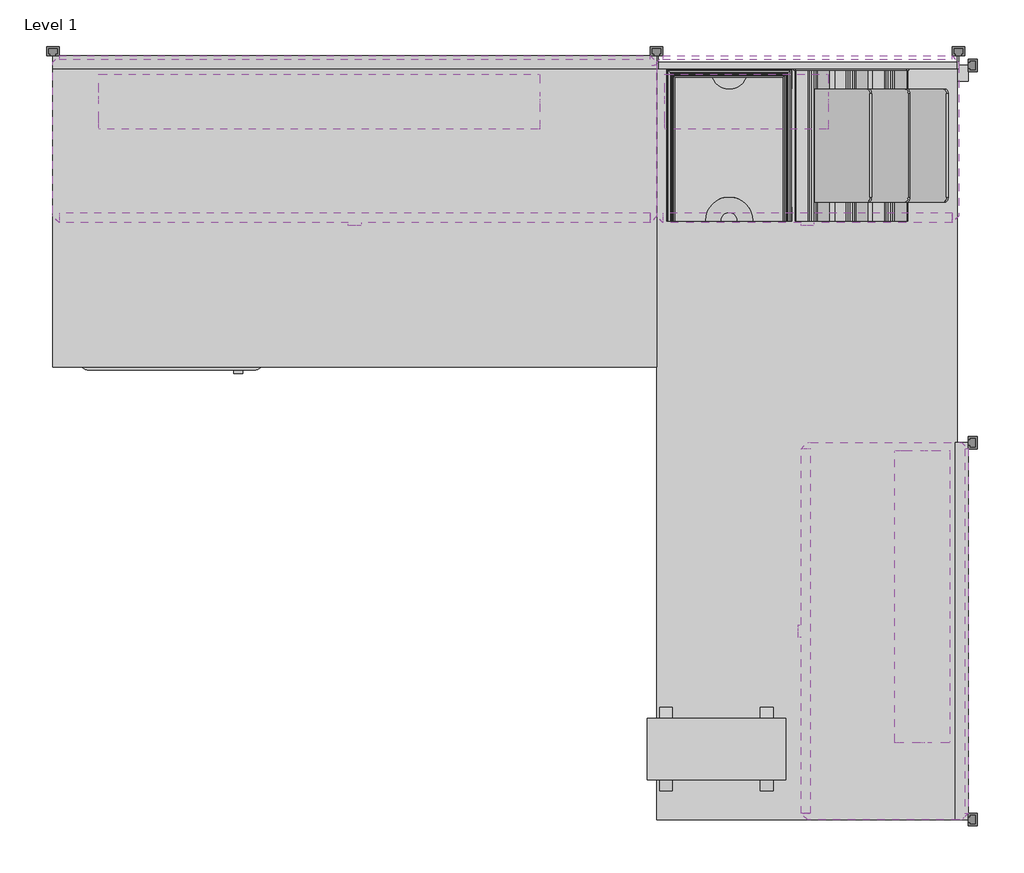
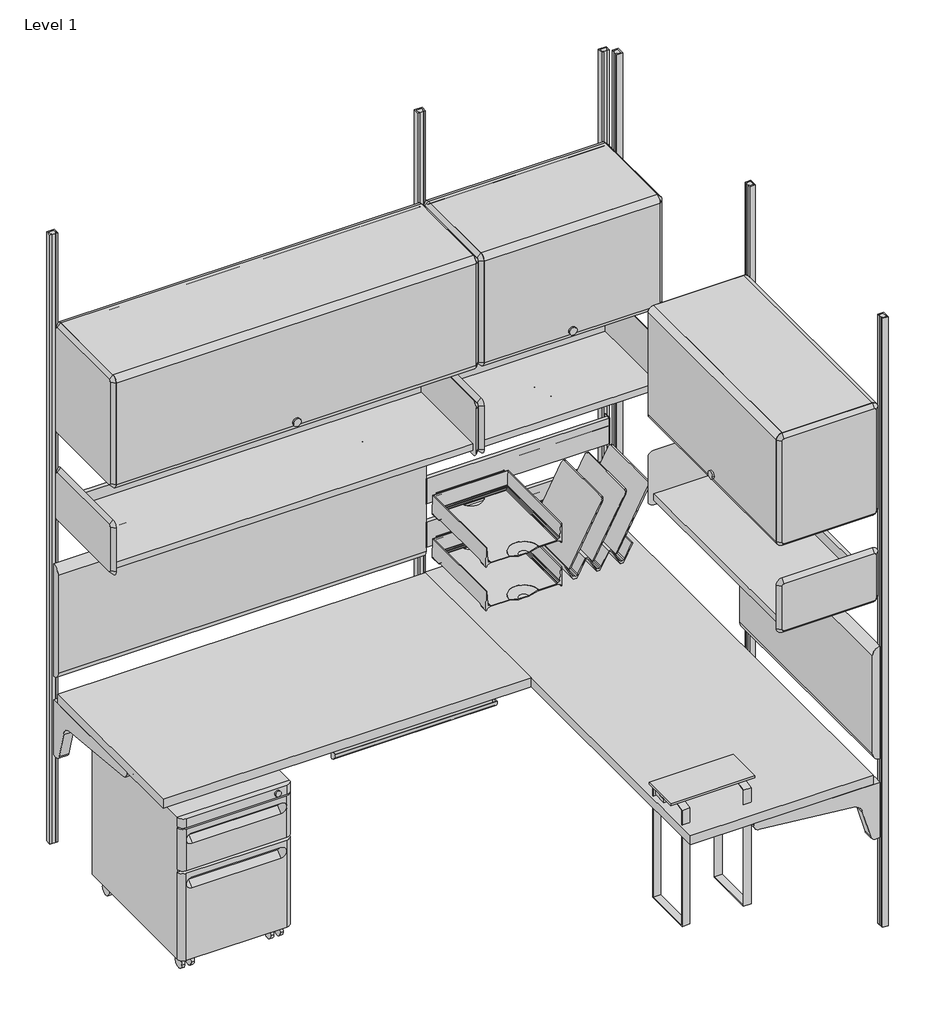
# One storey, incomplete: 24 furniture elements, 3 light fixtures.
"""IFC4 building model written with IfcOpenShell, lengths in millimetres."""

from ifc_helpers import new_model, si_unit, origin, place, context, project, spatial, transform, mapped, element, save
from components import furniture_84c54a78, furniture_bb782dc1, furniture_df6c216b, furniture_29f4d18c, furniture_477aaaef, furniture_17bfd149, furniture_cd3984e7, furniture_0a03e707, furniture_287f42d7, furniture_eaff21fa, furniture_1a24d834, furniture_b55deac3, furniture_7c5ded92, furniture_7e3bf245, furniture_12885719, furniture_8f8ee175, furniture_ed9c8b2b, furniture_ea425779, vertical_a4187a12, light_fixture_9518d37c, light_fixture_64e15388, light_fixture_6bfc72b8

model = new_model("IFC4")

# Units and contexts
model_context = context("Model", 3, world=origin())
ifc_project = project(units=[si_unit("LENGTHUNIT", "METRE", prefix="MILLI")], contexts=[model_context])

# Site, building, storey
site = spatial("IfcSite", under=ifc_project)
building = spatial("IfcBuilding", under=site)
storey = spatial("IfcBuildingStorey", under=building, Name="Level 1", Elevation=0.0)

# Furniture
placement = place(None, origin())
furniture_shape = furniture_84c54a78(model_context)
element("IfcFurniture", 1, ObjectType="HermanMiller_QuadrantFiling_G5111_MobilePedestal : 21-1/2\"H x 20\"D x 15\"W BF", at=placement, inside=storey, context=model_context, shape_type="MappedRepresentation", body=[
    mapped(furniture_shape, transform((239.44326, -390.382763, 0.0), x_axis=(1.0, 0.0, 0.0), y_axis=(0.0, 1.0, 0.0), z_axis=(0.0, 0.0, 1.0))),
])
furniture_2_shape = furniture_bb782dc1(model_context)
element("IfcFurniture", 2, ObjectType="HermanMiller_ThrivePortfolio_Y7218_DiagonalTray : 8 1/2\"H x 12\"D x 13\"W", at=placement, inside=storey, context=model_context, shape_type="MappedRepresentation", body=[
    mapped(furniture_2_shape, transform((1612.323177, -198.47052, 0.0), x_axis=(1.0, 0.0, 0.0), y_axis=(0.0, 1.0, 0.0), z_axis=(0.0, 0.0, 1.0))),
])
furniture_3_shape = furniture_df6c216b(model_context)
element("IfcFurniture", 3, ObjectType="HermanMiller_ThrivePortfolio_Y7216_PaperTray : 3\"H x 12\"D x 10\"W", at=placement, inside=storey, context=model_context, shape_type="MappedRepresentation", body=[
    mapped(furniture_3_shape, transform((1365.4024, -198.47052, 0.0), x_axis=(1.0, 0.0, 0.0), y_axis=(0.0, 1.0, 0.0), z_axis=(0.0, 0.0, 1.0))),
])
furniture_4_shape = furniture_29f4d18c(model_context)
element("IfcFurniture", 4, ObjectType="HermanMiller_ThrivePortfolio_Y7216_PaperTray : 3\"H x 12\"D x 10\"W", at=placement, inside=storey, context=model_context, shape_type="MappedRepresentation", body=[
    mapped(furniture_4_shape, transform((1365.4024, -198.47052, 0.0), x_axis=(1.0, 0.0, 0.0), y_axis=(0.0, 1.0, 0.0), z_axis=(0.0, 0.0, 1.0))),
])
furniture_5_shape = furniture_477aaaef(model_context)
element("IfcFurniture", 5, ObjectType="HermanMiller_ThrivePortfolio_Y5010_PencilDrawer : 2\"H x 16\"D x 21\"W", at=placement, inside=storey, context=model_context, shape_type="MappedRepresentation", body=[
    mapped(furniture_5_shape, transform((839.21854, -441.04052, 0.0), x_axis=(1.0, 0.0, 0.0), y_axis=(0.0, 1.0, 0.0), z_axis=(0.0, 0.0, 1.0))),
])
furniture_6_shape = furniture_17bfd149(model_context)
element("IfcFurniture", 6, ObjectType="HermanMiller_ActionOffice_A3610_ToolBar : 4\"H x 24\"W", at=placement, inside=storey, context=model_context, shape_type="MappedRepresentation", body=[
    mapped(furniture_6_shape, transform((1524.0, -31.7499996, 0.0), x_axis=(1.0, 0.0, 0.0), y_axis=(0.0, 1.0, 0.0), z_axis=(0.0, 0.0, 1.0))),
])
furniture_7_shape = furniture_cd3984e7(model_context)
element("IfcFurniture", 7, ObjectType="HermanMiller_ActionOffice_A3610_ToolBar : 4\"H x 24\"W", at=placement, inside=storey, context=model_context, shape_type="MappedRepresentation", body=[
    mapped(furniture_7_shape, transform((1524.0, -31.7499996, 0.0), x_axis=(1.0, 0.0, 0.0), y_axis=(0.0, 1.0, 0.0), z_axis=(0.0, 0.0, 1.0))),
])
furniture_8_shape = furniture_0a03e707(model_context)
element("IfcFurniture", 8, ObjectType="HermanMiller_ActionOffice_A3410_B-StyleTackboard : 16\"H x 48\"W", at=placement, inside=storey, context=model_context, shape_type="MappedRepresentation", body=[
    mapped(furniture_8_shape, transform((609.6, -31.75, 0.0), x_axis=(1.0, 0.0, 0.0), y_axis=(0.0, 1.0, 0.0), z_axis=(0.0, 0.0, 1.0))),
])
furniture_9_shape = furniture_287f42d7(model_context)
element("IfcFurniture", 9, ObjectType="HermanMiller_ActionOffice_A3220_B-StyleStorageDisplay : Shelf 13\"D x 48\"W", at=placement, inside=storey, context=model_context, shape_type="MappedRepresentation", body=[
    mapped(furniture_9_shape, transform((733.5420045, -200.025, 0.0), x_axis=(1.0, 0.0, 0.0), y_axis=(0.0, 1.0, 0.0), z_axis=(0.0, 0.0, 1.0))),
])
furniture_10_shape = furniture_eaff21fa(model_context)
element("IfcFurniture", 10, ObjectType="HermanMiller_ActionOffice_A3220_B-StyleStorageDisplay : Shelf 13\"D x 24\"W", at=placement, inside=storey, context=model_context, shape_type="MappedRepresentation", body=[
    mapped(furniture_10_shape, transform((1647.9420045, -200.025, 0.0), x_axis=(1.0, 0.0, 0.0), y_axis=(0.0, 1.0, 0.0), z_axis=(0.0, 0.0, 1.0))),
])
furniture_11_shape = furniture_1a24d834(model_context)
element("IfcFurniture", 11, ObjectType="HermanMiller_ActionOffice_A3352_B-StyleFlipperDoorUnit : 15 1/2\"H x 13\"D x 48\"W", at=placement, inside=storey, context=model_context, shape_type="MappedRepresentation", body=[
    mapped(furniture_11_shape, transform((609.6, -200.025, 0.0), x_axis=(1.0, 0.0, 0.0), y_axis=(0.0, 1.0, 0.0), z_axis=(0.0, 0.0, 1.0))),
])
furniture_12_shape = furniture_b55deac3(model_context)
element("IfcFurniture", 12, ObjectType="HermanMiller_ActionOffice_A3352_B-StyleFlipperDoorUnit : 15 1/2\"H x 13\"D x 24\"W", at=placement, inside=storey, context=model_context, shape_type="MappedRepresentation", body=[
    mapped(furniture_12_shape, transform((1524.0, -200.025, 0.0), x_axis=(1.0, 0.0, 0.0), y_axis=(0.0, 1.0, 0.0), z_axis=(0.0, 0.0, 1.0))),
])
furniture_13_shape = furniture_7c5ded92(model_context)
element("IfcFurniture", 13, ObjectType="HermanMiller_ActionOffice_A3410_B-StyleTackboard : 16\"H x 30\"W", at=placement, inside=storey, context=model_context, shape_type="MappedRepresentation", body=[
    mapped(furniture_13_shape, transform((1835.15, -1181.1, 0.0), x_axis=(0.0, -1.0, 0.0), y_axis=(1.0, 0.0, 0.0), z_axis=(0.0, 0.0, 1.0))),
])
furniture_14_shape = furniture_7e3bf245(model_context)
element("IfcFurniture", 14, ObjectType="HermanMiller_ActionOffice_A3220_B-StyleStorageDisplay : Shelf 13\"D x 30\"W", at=placement, inside=storey, context=model_context, shape_type="MappedRepresentation", body=[
    mapped(furniture_14_shape, transform((1666.875, -1305.0420045, 0.0), x_axis=(0.0, -1.0, 0.0), y_axis=(1.0, 0.0, 0.0), z_axis=(0.0, 0.0, 1.0))),
])
furniture_15_shape = furniture_12885719(model_context)
element("IfcFurniture", 15, ObjectType="HermanMiller_ActionOffice_A3352_B-StyleFlipperDoorUnit : 15 1/2\"H x 13\"D x 30\"W", at=placement, inside=storey, context=model_context, shape_type="MappedRepresentation", body=[
    mapped(furniture_15_shape, transform((1666.875, -1181.1, 0.0), x_axis=(0.0, -1.0, 0.0), y_axis=(1.0, 0.0, 0.0), z_axis=(0.0, 0.0, 1.0))),
])
furniture_16_shape = furniture_8f8ee175(model_context)
element("IfcFurniture", 16, ObjectType="HermanMiller_ActionOffice_A2310_Sq-EdgeRectangularWorkSurface : 24\"D x 60\"W", at=placement, inside=storey, context=model_context, shape_type="MappedRepresentation", body=[
    mapped(furniture_16_shape, transform((1533.525, -800.1, 0.0), x_axis=(0.0, -1.0, 0.0), y_axis=(1.0, 0.0, 0.0), z_axis=(0.0, 0.0, 1.0))),
])
furniture_17_shape = furniture_ed9c8b2b(model_context)
element("IfcFurniture", 17, ObjectType="HermanMiller_ActionOffice_A2310_Sq-EdgeRectangularWorkSurface : 24\"D x 48\"W", at=placement, inside=storey, context=model_context, shape_type="MappedRepresentation", body=[
    mapped(furniture_17_shape, transform((609.6, -333.375, 0.0), x_axis=(1.0, 0.0, 0.0), y_axis=(0.0, 1.0, 0.0), z_axis=(0.0, 0.0, 1.0))),
])
furniture_18_shape = furniture_ea425779(model_context)
element("IfcFurniture", 18, ObjectType="HermanMiller_ActionOffice_AO213_WallStrip : 84\"H", at=placement, inside=storey, context=model_context, shape_type="MappedRepresentation", body=[
    mapped(furniture_18_shape, transform((1866.9, -800.1, 0.0), x_axis=(0.0, -1.0, 0.0), y_axis=(1.0, 0.0, 0.0), z_axis=(0.0, 0.0, 1.0))),
])
element("IfcFurniture", 19, ObjectType="HermanMiller_ActionOffice_AO213_WallStrip : 84\"H", at=placement, inside=storey, context=model_context, shape_type="MappedRepresentation", body=[
    mapped(furniture_18_shape, transform((1828.8, 0.0, 0.0), x_axis=(1.0, 0.0, 0.0), y_axis=(0.0, 1.0, 0.0), z_axis=(0.0, 0.0, 1.0))),
])
element("IfcFurniture", 20, ObjectType="HermanMiller_ActionOffice_AO213_WallStrip : 84\"H", at=placement, inside=storey, context=model_context, shape_type="MappedRepresentation", body=[
    mapped(furniture_18_shape, transform((0.0, 0.0, 0.0), x_axis=(1.0, 0.0, 0.0), y_axis=(0.0, 1.0, 0.0), z_axis=(0.0, 0.0, 1.0))),
])
element("IfcFurniture", 21, ObjectType="HermanMiller_ActionOffice_AO213_WallStrip : 84\"H", at=placement, inside=storey, context=model_context, shape_type="MappedRepresentation", body=[
    mapped(furniture_18_shape, transform((1219.2, 0.0, 0.0), x_axis=(1.0, 0.0, 0.0), y_axis=(0.0, 1.0, 0.0), z_axis=(0.0, 0.0, 1.0))),
])
element("IfcFurniture", 22, ObjectType="HermanMiller_ActionOffice_AO213_WallStrip : 84\"H", at=placement, inside=storey, context=model_context, shape_type="MappedRepresentation", body=[
    mapped(furniture_18_shape, transform((1866.9, -38.1, 0.0), x_axis=(0.0, -1.0, 0.0), y_axis=(1.0, 0.0, 0.0), z_axis=(0.0, 0.0, 1.0))),
])
element("IfcFurniture", 23, ObjectType="HermanMiller_ActionOffice_AO213_WallStrip : 84\"H", at=placement, inside=storey, context=model_context, shape_type="MappedRepresentation", body=[
    mapped(furniture_18_shape, transform((1866.9, -1562.1, 0.0), x_axis=(0.0, -1.0, 0.0), y_axis=(1.0, 0.0, 0.0), z_axis=(0.0, 0.0, 1.0))),
])
vertical_shape = vertical_a4187a12(model_context)
element("IfcFurniture", 24, ObjectType="HermanMiller_ThrivePortfolio_Y7813_CPUHolder : Vertical", at=placement, inside=storey, context=model_context, shape_type="MappedRepresentation", body=[
    mapped(vertical_shape, transform((1339.85, -1419.2179871, 0.0), x_axis=(0.0, -1.0000000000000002, 0.0), y_axis=(1.0000000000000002, 0.0, 0.0), z_axis=(0.0, 0.0, 1.0))),
])

# Light fixtures
light_fixture_shape = light_fixture_9518d37c(model_context)
element("IfcLightFixture", 25, ObjectType="HermanMiller_SupplementalProducts_G6136_UtilityTaskLight : AO Etho Canvas 42W", at=placement, inside=storey, context=model_context, shape_type="MappedRepresentation", body=[
    mapped(light_fixture_shape, transform((537.718, -111.125, 0.0), x_axis=(1.0, 0.0, 0.0), y_axis=(0.0, 1.0, 0.0), z_axis=(0.0, 0.0, 1.0))),
])
light_fixture_2_shape = light_fixture_64e15388(model_context)
element("IfcLightFixture", 26, ObjectType="HermanMiller_SupplementalProducts_G6136_UtilityTaskLight : AO Etho Canvas 24W", at=placement, inside=storey, context=model_context, shape_type="MappedRepresentation", body=[
    mapped(light_fixture_2_shape, transform((1400.429, -111.125, 0.0), x_axis=(1.0, 0.0, 0.0), y_axis=(0.0, 1.0, 0.0), z_axis=(0.0, 0.0, 1.0))),
])
light_fixture_3_shape = light_fixture_6bfc72b8(model_context)
element("IfcLightFixture", 27, ObjectType="HermanMiller_SupplementalProducts_G6136_UtilityTaskLight : AO Etho Canvas 30W", at=placement, inside=storey, context=model_context, shape_type="MappedRepresentation", body=[
    mapped(light_fixture_3_shape, transform((1755.775, -1111.631, 0.0), x_axis=(0.0, -1.0, 0.0), y_axis=(1.0, 0.0, 0.0), z_axis=(0.0, 0.0, 1.0))),
])

save(model, "model.ifc")
